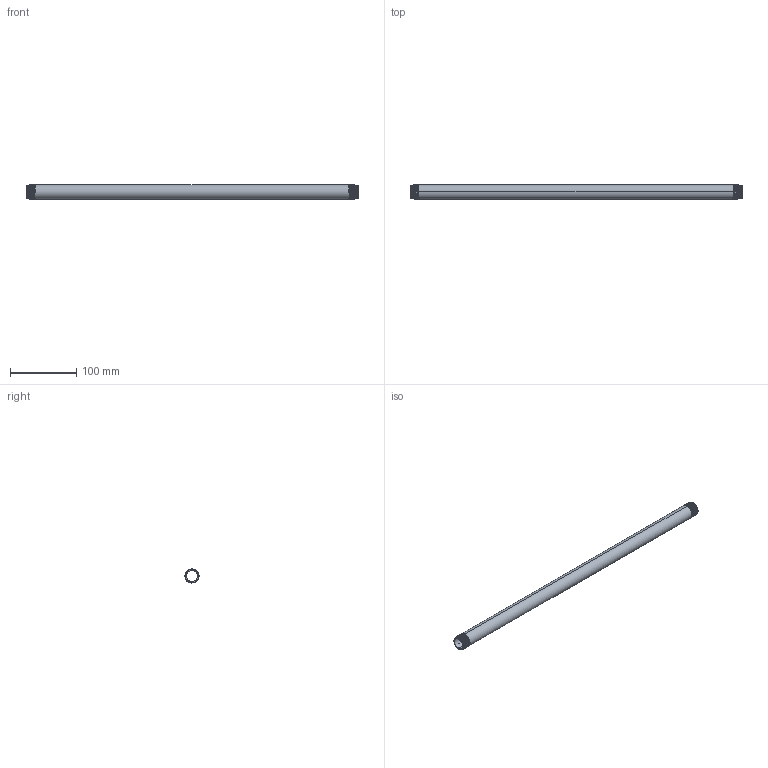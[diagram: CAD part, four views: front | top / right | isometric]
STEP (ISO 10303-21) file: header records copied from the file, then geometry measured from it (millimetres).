
FILE_DESCRIPTION (( 'STEP AP203' ), '1' );
FILE_NAME ('3D_R210_1-2x500_17191515.STEP', '2024-08-16T14:35:46', ( '' ), ( '' ), 'SwSTEP 2.0', 'SolidWorks 2024', '' );
FILE_SCHEMA (( 'CONFIG_CONTROL_DESIGN' ));
Length unit declared in the file: millimetre
Products named in the file (1): 3D_R210_1-2x500_17191515
Bounding box: 500 x 21.28 x 21.3 mm (x, y, z)
Volume: 59855.9 mm3; surface area: 61674.4 mm2
Topology: 1 solids, 1 shells, 62 faces, 172 edges, 112 vertices
Faces by surface type: cone 48, bspline 6, cylinder 4, plane 4
Entity records: 9237 total; most frequent: CARTESIAN_POINT 7807, ORIENTED_EDGE 344, DIRECTION 190, EDGE_CURVE 172, VERTEX_POINT 112, B_SPLINE_CURVE_WITH_KNOTS 100, AXIS2_PLACEMENT_3D 69, EDGE_LOOP 64
